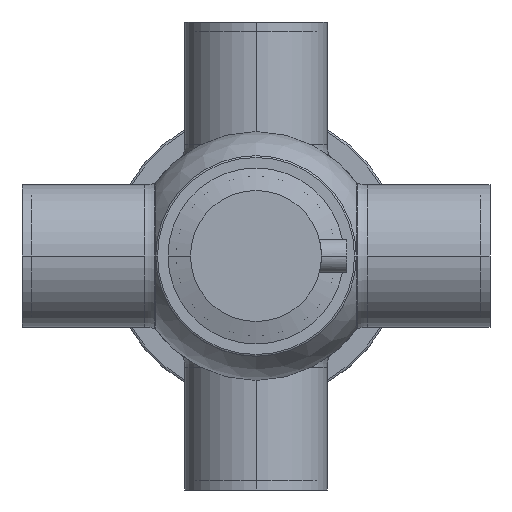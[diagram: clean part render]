
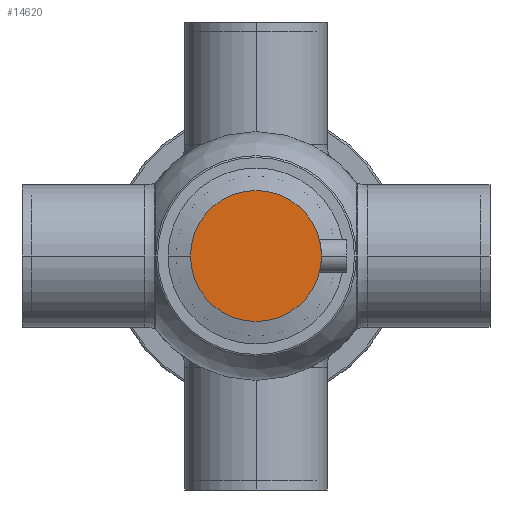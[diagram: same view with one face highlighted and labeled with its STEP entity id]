
A CAD part, front view. The second image highlights one B-rep face of the part: STEP entity #14620.
In plain terms, the highlighted planar face has unit normal (0, -1, 0).
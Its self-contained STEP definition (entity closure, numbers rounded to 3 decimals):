
#14290=CARTESIAN_POINT('',(35.,-92.85,0.))
;
#14300=VERTEX_POINT('',#14290);
#14330=CARTESIAN_POINT('',(0.,-92.85,0.));
#14340=DIRECTION('',(0.,-1.,0.));
#14350=DIRECTION('',(-1.,0.,0.));
#14360=AXIS2_PLACEMENT_3D('',#14330,#14340,#14350);
#14370=CIRCLE('',#14360,35.);
#14380=CARTESIAN_POINT('',(-35.,-92.85,0.));
#14390=VERTEX_POINT('',#14380);
#14400=EDGE_CURVE('',#14300,#14390,#14370,.T.);
#14520=CARTESIAN_POINT('',(0.,-92.85,0.));
#14530=DIRECTION('',(0.,-1.,0.));
#14540=DIRECTION('',(-1.,0.,0.));
#14550=AXIS2_PLACEMENT_3D('',#14520,#14530,#14540);
#14560=PLANE('',#14550);
#14570=EDGE_CURVE('',#14390,#14300,#14370,.T.);
#14580=ORIENTED_EDGE('',*,*,#14570,.T.);
#14590=ORIENTED_EDGE('',*,*,#14400,.T.);
#14600=EDGE_LOOP('',(#14590,#14580));
#14610=FACE_OUTER_BOUND('',#14600,.T.);
#14620=ADVANCED_FACE('',(#14610),#14560,.T.);
